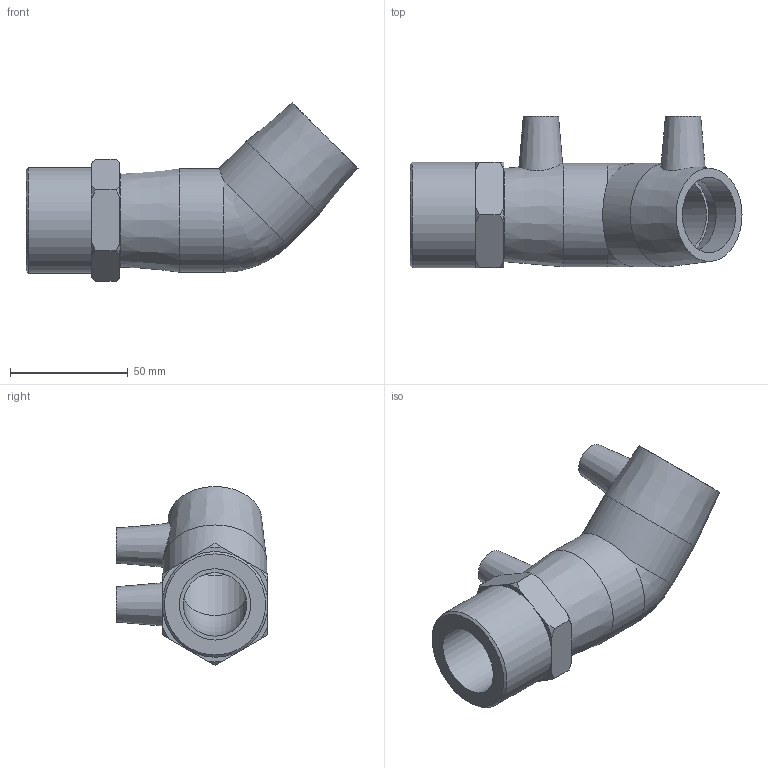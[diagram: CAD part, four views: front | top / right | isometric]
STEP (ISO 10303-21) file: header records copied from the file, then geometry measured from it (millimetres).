
FILE_DESCRIPTION(/* description */ ('PLASSON 45° ELBOW TRANSITION FEMALE 32-1"'),/* implementation_level */ '2;1');
FILE_NAME(/* name */ 'C:\Dropbox\KIMPROJECTS-Inventor\99-16-3568-Processing\ElectroFusion Fittings\02.02.20\493604\493604032010N.ipt.stp',/* time_stamp */ '2020-02-02T12:20:31+02:00',/* author */ ('KIM'),/* organization */ (''),/* preprocessor_version */ 'ST-DEVELOPER v15.6',/* originating_system */ 'Autodesk Inventor 2015',/* authorisation */ '');
FILE_SCHEMA (('AUTOMOTIVE_DESIGN { 1 0 10303 214 3 1 1 }'));
Length unit declared in the file: millimetre
Products named in the file (1): 493604032010N
Bounding box: 141 x 64.44 x 75.95 mm (x, y, z)
Volume: 122107.7 mm3; surface area: 40388.4 mm2
Topology: 1 solids, 2 shells, 61 faces, 141 edges, 91 vertices
Faces by surface type: plane 27, cone 19, cylinder 13, bspline 1, torus 1
Full cylindrical faces by diameter (mm): 4 x2, 10 x2, 27 x1, 30.291 x1, 32 x4, 44 x2, 44.88 x1
Entity records: 1584 total; most frequent: CARTESIAN_POINT 383, DIRECTION 252, ORIENTED_EDGE 206, AXIS2_PLACEMENT_3D 114, EDGE_CURVE 103, EDGE_LOOP 97, VERTEX_POINT 78, FACE_OUTER_BOUND 61
